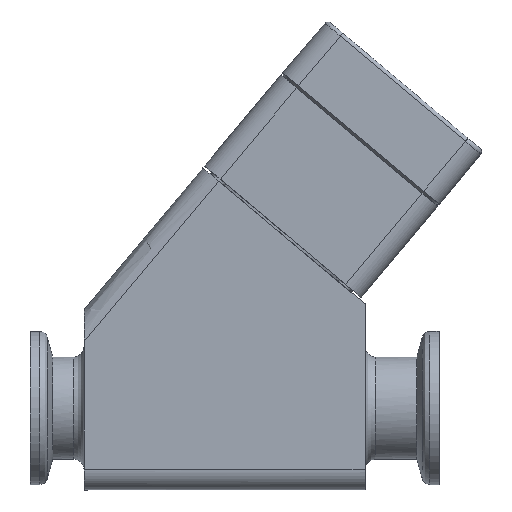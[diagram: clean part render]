
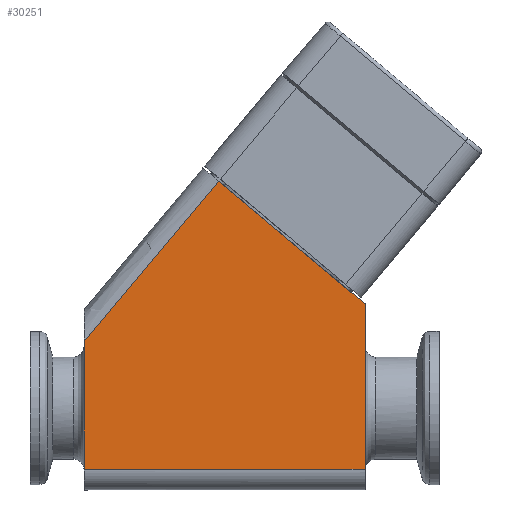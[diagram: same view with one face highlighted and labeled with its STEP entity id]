
A CAD part, top view. The second image highlights one B-rep face of the part: STEP entity #30251.
In plain terms, the highlighted free-form (B-spline) face has degree [1, 1] with [2, 2] control points.
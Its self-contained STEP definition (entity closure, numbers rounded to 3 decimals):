
#30080=CARTESIAN_POINT('V7',(26.335,60.4,
   20.));
#30081=VERTEX_POINT('V7',#30080);
#30104=CARTESIAN_POINT('V22',(55.,36.347,
   20.));
#30105=VERTEX_POINT('V22',#30104);
#30111=CARTESIAN_POINT('E26',(55.,36.347,
   20.));
#30112=CARTESIAN_POINT('E26',(26.335,60.4,
   20.));
#30113=B_SPLINE_CURVE_WITH_KNOTS('E26',1,(#30111,#30112),
   .POLYLINE_FORM.,.F.,.U.,(2,2),(0.163,
   0.82),.UNSPECIFIED.);
#30114=EDGE_CURVE('E26',#30105,#30081,#30113,.T.);
#30161=CARTESIAN_POINT('V5',(0.,29.015,
   20.));
#30162=VERTEX_POINT('V5',#30161);
#30173=CARTESIAN_POINT('V15',(0.,4.,
   20.));
#30174=VERTEX_POINT('V15',#30173);
#30175=CARTESIAN_POINT('E63',(0.,4.,20.0)
   );
#30176=CARTESIAN_POINT('E63',(0.,29.015,
   20.));
#30177=B_SPLINE_CURVE_WITH_KNOTS('E63',1,(#30175,#30176),
   .POLYLINE_FORM.,.F.,.U.,(2,2),(0.114,
   0.823),.UNSPECIFIED.);
#30178=EDGE_CURVE('E63',#30174,#30162,#30177,.T.);
#30221=CARTESIAN_POINT('E8',(26.335,60.4,
   20.));
#30222=CARTESIAN_POINT('E8',(0.,29.015,
   20.));
#30223=B_SPLINE_CURVE_WITH_KNOTS('E8',1,(#30221,#30222),
   .POLYLINE_FORM.,.F.,.U.,(2,2),(2.0,8.521),
   .UNSPECIFIED.);
#30224=EDGE_CURVE('E8',#30081,#30162,#30223,.T.);
#30229=CARTESIAN_POINT('F33',(-2.846,-3.283,
   20.));
#30230=CARTESIAN_POINT('F33',(59.775,-3.283,
   20.));
#30231=CARTESIAN_POINT('F33',(-2.846,68.935,
   20.));
#30232=CARTESIAN_POINT('F33',(59.775,68.935,
   20.));
#30233=QUASI_UNIFORM_SURFACE('F33',1,1,((#30229,#30231),(#30230,
   #30232)),.PLANE_SURF.,.F.,.F.,.U.);
#30234=ORIENTED_EDGE('F3',*,*,#30224,.F.);
#30235=ORIENTED_EDGE('F7',*,*,#30114,.F.);
#30236=CARTESIAN_POINT('V13',(55.,4.,
   20.));
#30237=VERTEX_POINT('V13',#30236);
#30238=CARTESIAN_POINT('E77',(55.,36.347,
   20.0));
#30239=CARTESIAN_POINT('E77',(55.,4.,
   20.0));
#30240=B_SPLINE_CURVE_WITH_KNOTS('E77',1,(#30238,#30239),
   .POLYLINE_FORM.,.F.,.U.,(2,2),(0.018,
   0.892),.UNSPECIFIED.);
#30241=EDGE_CURVE('E77',#30105,#30237,#30240,.T.);
#30242=ORIENTED_EDGE('E77',*,*,#30241,.T.);
#30243=CARTESIAN_POINT('E16',(0.,4.,
   20.));
#30244=CARTESIAN_POINT('E16',(55.,4.,
   20.));
#30245=B_SPLINE_CURVE_WITH_KNOTS('E16',1,(#30243,#30244),
   .POLYLINE_FORM.,.F.,.U.,(2,2),(2.0,10.754),
   .UNSPECIFIED.);
#30246=EDGE_CURVE('E16',#30174,#30237,#30245,.T.);
#30247=ORIENTED_EDGE('E16',*,*,#30246,.F.);
#30248=ORIENTED_EDGE('E63',*,*,#30178,.T.);
#30249=EDGE_LOOP('F33',(#30234,#30235,#30242,#30247,#30248));
#30250=FACE_OUTER_BOUND('F33',#30249,.F.);
#30251=ADVANCED_FACE('F33',(#30250),#30233,.T.);
